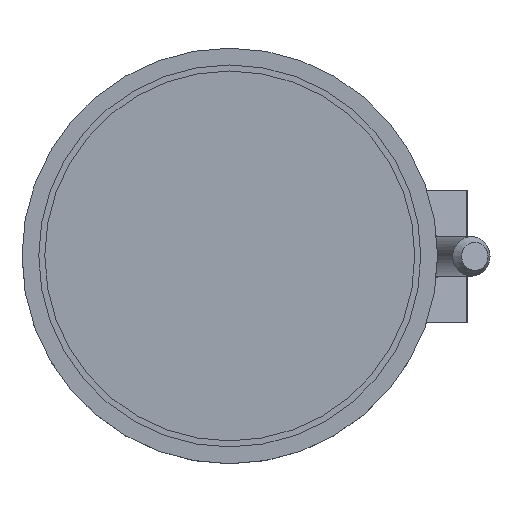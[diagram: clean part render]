
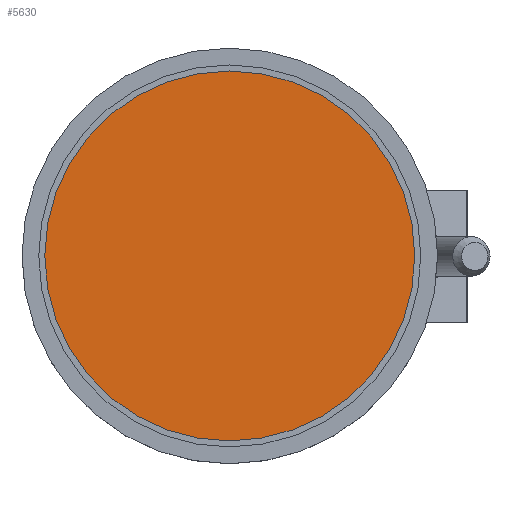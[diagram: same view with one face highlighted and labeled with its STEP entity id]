
A CAD part, top view. The second image highlights one B-rep face of the part: STEP entity #5630.
In plain terms, the highlighted planar face has unit normal (0, 0, 1).
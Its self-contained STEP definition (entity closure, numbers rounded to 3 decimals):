
#284=PLANE('',#6183);
#566=FACE_OUTER_BOUND('',#865,.T.);
#865=EDGE_LOOP('',(#4956));
#1127=CIRCLE('',#6182,28.04);
#2575=VERTEX_POINT('',#10472);
#3371=EDGE_CURVE('',#2575,#2575,#1127,.T.);
#4956=ORIENTED_EDGE('',*,*,#3371,.T.);
#5630=ADVANCED_FACE('',(#566),#284,.T.);
#6182=AXIS2_PLACEMENT_3D('',#10473,#7673,#7674);
#6183=AXIS2_PLACEMENT_3D('',#10474,#7675,#7676);
#7673=DIRECTION('center_axis',(0.,0.,
1.));
#7674=DIRECTION('ref_axis',(1.,0.,0.));
#7675=DIRECTION('center_axis',(0.,0.,
1.));
#7676=DIRECTION('ref_axis',(0.,-1.,0.));
#10472=CARTESIAN_POINT('',(-28.04,0.,0.));
#10473=CARTESIAN_POINT('Origin',(0.,0.,0.));
#10474=CARTESIAN_POINT('Origin',(0.,0.,0.));
